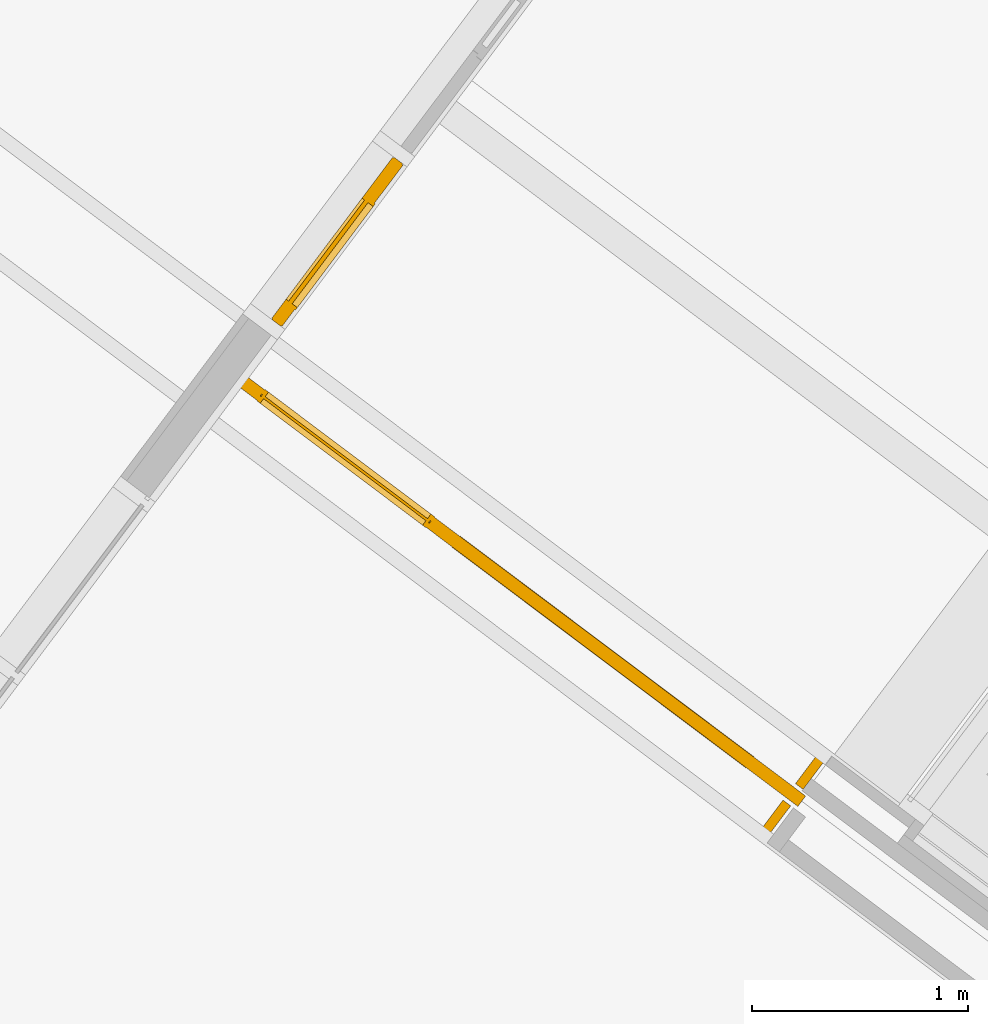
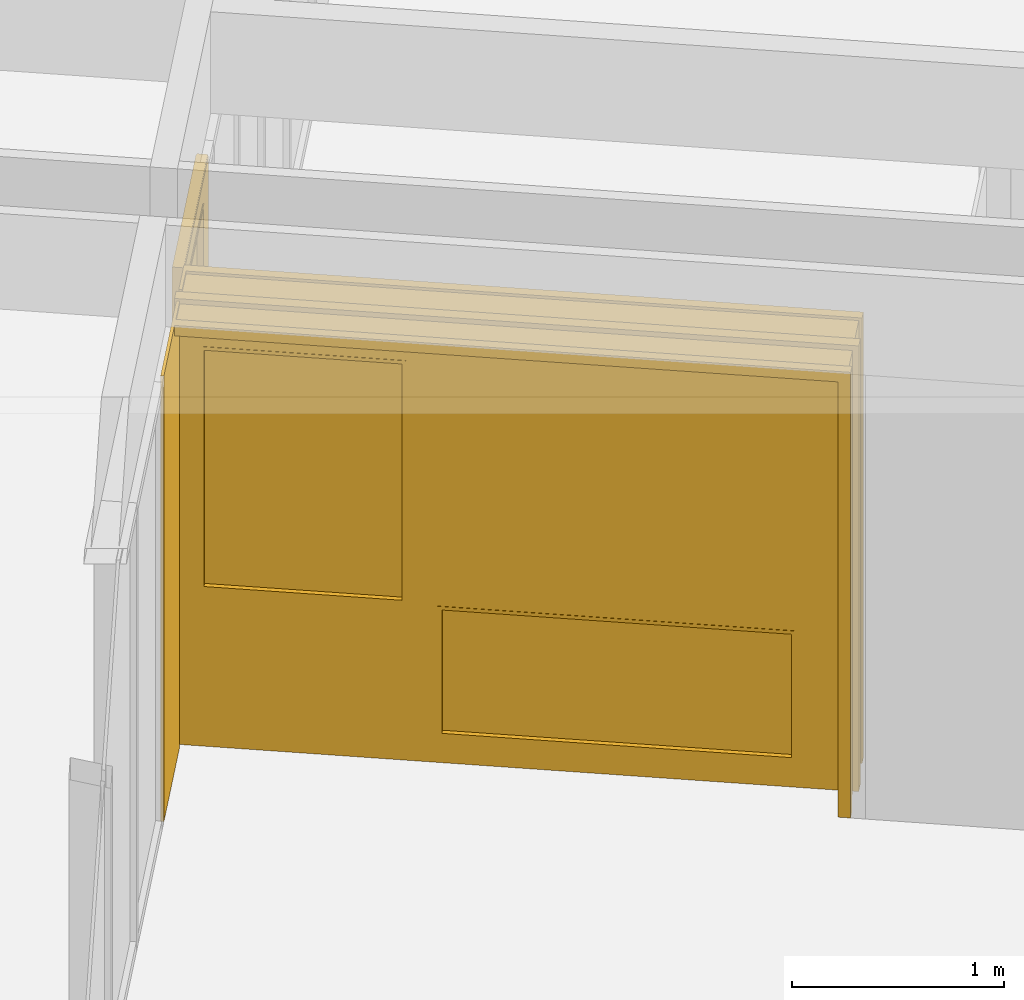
# One storey, part 169 of 243: 2 doors, 1 element without a shape of its own.
"""IFC2X3 building model written with IfcOpenShell, lengths in metres."""

import ifcopenshell
import ifcopenshell.guid

model = None  # the IFC model being written
_history = None  # IfcOwnerHistory: only IFC2X3 demands one
_inside = {}  # id of a spatial element -> (the spatial element, [elements in it])
_under = {}  # id of a project, library or spatial element -> (it, [spatial elements below it])
_declared = {}  # id of a project -> (the project, [libraries it declares])
_typed = {}  # id of a type object -> (the type object, [elements of that type])
_made_of = {}  # id of a material, layer set ... -> (it, [elements and type objects made of it])


def new_model(schema):
    """Start an empty IFC model of exactly this schema.

    Asked for "IFC4X3", IfcOpenShell would pick the latest addendum, in which some entities
    have other attributes; the version numbers below select the first issue.
    IFC2X3 requires an IfcOwnerHistory on every rooted entity: one is made here for all.
    """
    global model, _history
    if schema == "IFC4X3":
        model = ifcopenshell.file(schema_version=(4, 3, 0, 0))
    else:
        model = ifcopenshell.file(schema=schema)
    _inside.clear()
    _under.clear()
    _declared.clear()
    _typed.clear()
    _made_of.clear()
    _history = None
    if model.schema == "IFC2X3":
        org = make("IfcOrganization", Name="unknown")
        user = make(
            "IfcPersonAndOrganization",
            ThePerson=make("IfcPerson", FamilyName="unknown"),
            TheOrganization=org,
        )
        app = make(
            "IfcApplication",
            ApplicationDeveloper=org,
            Version="unknown",
            ApplicationFullName="unknown",
            ApplicationIdentifier="unknown",
        )
        _history = make(
            "IfcOwnerHistory",
            OwningUser=user,
            OwningApplication=app,
            ChangeAction="ADDED",
            CreationDate=0,
        )
    return model


def make(cls, **values):
    """One entity of the class cls with the attributes given. An attribute that is None is left unset."""
    return model.create_entity(
        cls, **{name: value for name, value in values.items() if value is not None}
    )


def entity(cls, *values):
    """Any entity or typed value of the class cls, its attributes in the order of the schema. None: left unset."""
    e = model.create_entity(cls)
    for i, value in enumerate(values):
        if value is not None:
            e[i] = value
    return e


def rooted(cls, **values):
    """An entity with a GlobalId (a new one), such as an element, a storey or a relation."""
    return make(cls, GlobalId=ifcopenshell.guid.new(), OwnerHistory=_history, **values)


def si_unit(unit_type, name, prefix=None):
    """IfcSIUnit, for example si_unit("LENGTHUNIT", "METRE", prefix="MILLI")."""
    return make("IfcSIUnit", UnitType=unit_type, Prefix=prefix, Name=name)


def converted_unit(unit_type, name, factor, base, dimensions=None, offset=None):
    """IfcConversionBasedUnit, such as the inch: factor (a typed value) times the base unit."""
    return make(
        "IfcConversionBasedUnit"
        if offset is None
        else "IfcConversionBasedUnitWithOffset",
        ConversionOffset=offset,
        Dimensions=None
        if dimensions is None
        else entity("IfcDimensionalExponents", *dimensions),
        UnitType=unit_type,
        Name=name,
        ConversionFactor=make(
            "IfcMeasureWithUnit", ValueComponent=factor, UnitComponent=base
        ),
    )


def derived_unit(unit_type, elements):
    """IfcDerivedUnit: a product of units, each with its exponent."""
    return make(
        "IfcDerivedUnit",
        Elements=[
            make("IfcDerivedUnitElement", Unit=unit, Exponent=power)
            for unit, power in elements
        ],
        UnitType=unit_type,
    )


def assignment(units):
    """IfcUnitAssignment: the units of a project."""
    return None if units is None else make("IfcUnitAssignment", Units=units)


def point(xyz):
    """IfcCartesianPoint."""
    return None if xyz is None else make("IfcCartesianPoint", Coordinates=xyz)


def direction(xyz):
    """IfcDirection."""
    return None if xyz is None else make("IfcDirection", DirectionRatios=xyz)


def frame(location, z_axis=None, x_axis=None):
    """IfcAxis2Placement3D, a coordinate frame: its origin and axes. An axis left out is left unset."""
    return make(
        "IfcAxis2Placement3D",
        Location=point(location),
        Axis=direction(z_axis),
        RefDirection=direction(x_axis),
    )


def origin():
    """The frame at (0, 0, 0) with its axes left unset."""
    return frame((0.0, 0.0, 0.0))


def place(relative_to, where):
    """IfcLocalPlacement: puts the frame where relative to a parent placement (None: the world)."""
    return make(
        "IfcLocalPlacement", PlacementRelTo=relative_to, RelativePlacement=where
    )


def context(
    kind, dimensions, precision=None, world=None, true_north=None, identifier=None
):
    """IfcGeometricRepresentationContext, for example the 3D "Model" context."""
    return make(
        "IfcGeometricRepresentationContext",
        ContextIdentifier=identifier,
        ContextType=kind,
        CoordinateSpaceDimension=dimensions,
        Precision=precision,
        WorldCoordinateSystem=world,
        TrueNorth=true_north,
    )


def subcontext(parent, identifier, kind, view, scale=None):
    """IfcGeometricRepresentationSubContext, for example "Body" below "Model"."""
    return make(
        "IfcGeometricRepresentationSubContext",
        ContextIdentifier=identifier,
        ContextType=kind,
        ParentContext=parent,
        TargetScale=scale,
        TargetView=view,
    )


def project(units=None, contexts=None):
    """IfcProject with its units and contexts."""
    return rooted(
        "IfcProject",
        Name="project",
        RepresentationContexts=contexts,
        UnitsInContext=assignment(units),
    )


def spatial(cls, under=None, at=None, **own):
    """A site, building, storey or space (cls), placed at a placement, below another one or the project."""
    s = rooted(cls, ObjectPlacement=at, **own)
    if under is not None:
        _under.setdefault(under.id(), (under, []))[1].append(s)
    return s


def faces_of(points, faces, orient=None, outer=None):
    """IfcFace entities. A face is a list of loops; a loop is a list of indices into points, from 0.

    orient and outer hold one flag for each loop. By default every Orientation is true, the
    first loop of a face is its IfcFaceOuterBound and the others are IfcFaceBound.
    """
    made = []
    for i, loops in enumerate(faces):
        bounds = []
        for j, loop in enumerate(loops):
            is_outer = j == 0 if outer is None else outer[i][j]
            bounds.append(
                make(
                    "IfcFaceOuterBound" if is_outer else "IfcFaceBound",
                    Bound=make("IfcPolyLoop", Polygon=[points[k] for k in loop]),
                    Orientation=True if orient is None else orient[i][j],
                )
            )
        made.append(make("IfcFace", Bounds=bounds))
    return made


def faceted_brep(points, faces, orient=None, outer=None, voids=None):
    """IfcFacetedBrep: a solid bounded by flat faces; with voids (closed shells), ...WithVoids."""
    shared = [point(p) for p in points]
    hull = make("IfcClosedShell", CfsFaces=faces_of(shared, faces, orient, outer))
    if voids is None:
        return make("IfcFacetedBrep", Outer=hull)
    return make(
        "IfcFacetedBrepWithVoids",
        Outer=hull,
        Voids=[
            make(cls, CfsFaces=faces_of(shared, fs, o, b)) for cls, fs, o, b in voids
        ],
    )


def shape(context_of_items, identifier, shape_type, items):
    """IfcShapeRepresentation: the items that make up one representation, for example the "Body"."""
    return make(
        "IfcShapeRepresentation",
        ContextOfItems=context_of_items,
        RepresentationIdentifier=identifier,
        RepresentationType=shape_type,
        Items=items,
    )


def source(mapping_origin, context_of_items, identifier, shape_type, items):
    """IfcRepresentationMap: a shape defined once, which mapped items show again and again."""
    return make(
        "IfcRepresentationMap",
        MappingOrigin=mapping_origin,
        MappedRepresentation=shape(context_of_items, identifier, shape_type, items),
    )


def transform(
    local_origin,
    x_axis=None,
    y_axis=None,
    z_axis=None,
    scale=None,
    scale2=None,
    scale3=None,
    uniform=True,
):
    """IfcCartesianTransformationOperator3D, or its non-uniform kind. x_axis, y_axis, z_axis: its Axis1, 2, 3."""
    if uniform:
        return make(
            "IfcCartesianTransformationOperator3D",
            Axis1=direction(x_axis),
            Axis2=direction(y_axis),
            LocalOrigin=point(local_origin),
            Scale=scale,
            Axis3=direction(z_axis),
        )
    return make(
        "IfcCartesianTransformationOperator3DnonUniform",
        Axis1=direction(x_axis),
        Axis2=direction(y_axis),
        LocalOrigin=point(local_origin),
        Scale=scale,
        Axis3=direction(z_axis),
        Scale2=scale2,
        Scale3=scale3,
    )


def mapped(mapping_source, mapping_target):
    """IfcMappedItem: shows the shape of a source again, moved by a transform."""
    return make(
        "IfcMappedItem", MappingSource=mapping_source, MappingTarget=mapping_target
    )


def material(Name=None, Category=None):
    """IfcMaterial."""
    return make("IfcMaterial", Name=Name, Category=Category)


def material_list(materials):
    """IfcMaterialList."""
    return make("IfcMaterialList", Materials=materials)


def made_of(thing, what):
    """Note that an element or type object is made of a material, layer set ...; save() writes the relation."""
    if what is not None:
        _made_of.setdefault(what.id(), (what, []))[1].append(thing)
    return thing


def type_object(cls, material=None, **own):
    """A type object (cls), such as IfcWallType, which elements share."""
    return made_of(rooted(cls, **own), material)


def type_shapes(of_type, sources):
    """Give a type object the sources (RepresentationMaps) that its elements show as mapped items."""
    of_type.RepresentationMaps = sources


def element(
    cls,
    number,
    at=None,
    inside=None,
    cuts=None,
    type_object=None,
    material=None,
    context=None,
    identifier="Body",
    shape_type=None,
    held_by="IfcProductDefinitionShape",
    body=None,
    shapes=None,
    **own,
):
    """One element of the class cls, such as IfcWall. Its Tag is "e" and its number.

    at: its placement. inside: the storey or other place that contains it. cuts: it is an
    opening in that element (IfcRelVoidsElement). A single representation is given by context,
    identifier, shape_type and body (its items); several are given by shapes. held_by: the class
    of the entity that holds the representations. save() writes the other relations.
    """
    e = rooted(cls, Tag="e%d" % number, ObjectPlacement=at, **own)
    if body is not None:
        shapes = [shape(context, identifier, shape_type, body)]
    if shapes is not None:
        e.Representation = make(held_by, Representations=shapes)
    if inside is not None:
        _inside.setdefault(inside.id(), (inside, []))[1].append(e)
    if cuts is not None:
        rooted(
            "IfcRelVoidsElement", RelatingBuildingElement=cuts, RelatedOpeningElement=e
        )
    if type_object is not None:
        _typed.setdefault(type_object.id(), (type_object, []))[1].append(e)
    return made_of(e, material)


def aggregate(whole, parts):
    """IfcRelAggregates: a whole, such as a stair, and the parts it consists of."""
    return rooted("IfcRelAggregates", RelatingObject=whole, RelatedObjects=parts)


def save(model, path):
    """Write the relations noted so far, then the file.

    IfcRelAggregates (storeys below a building ...), IfcRelContainedInSpatialStructure (elements
    in a storey), IfcRelDefinesByType, IfcRelAssociatesMaterial and IfcRelDeclares: one each for
    every whole, place, type object, material and project.
    """
    for whole, parts in _under.values():
        aggregate(whole, parts)
    for where, things in _inside.values():
        rooted(
            "IfcRelContainedInSpatialStructure",
            RelatedElements=things,
            RelatingStructure=where,
        )
    for kind, things in _typed.values():
        rooted("IfcRelDefinesByType", RelatedObjects=things, RelatingType=kind)
    for what, things in _made_of.values():
        rooted("IfcRelAssociatesMaterial", RelatedObjects=things, RelatingMaterial=what)
    for by, libraries in _declared.values():
        rooted("IfcRelDeclares", RelatingContext=by, RelatedDefinitions=libraries)
    model.write(path)


model = new_model("IFC2X3")

# Units and contexts
model_context = context("Model", 3, precision=1e-05, world=origin(), true_north=direction((6.123031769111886e-17, 1.0)))
body_context = subcontext(model_context, "Body", "Model", "MODEL_VIEW")
ifc_project = project(units=[si_unit("LENGTHUNIT", "METRE"), si_unit("AREAUNIT", "SQUARE_METRE"), si_unit("VOLUMEUNIT", "CUBIC_METRE"), converted_unit("PLANEANGLEUNIT", "DEGREE", entity("IfcRatioMeasure", 0.017453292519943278), si_unit("PLANEANGLEUNIT", "RADIAN"), dimensions=[0, 0, 0, 0, 0, 0, 0]), si_unit("MASSUNIT", "GRAM", prefix="KILO"), derived_unit("MASSDENSITYUNIT", [(si_unit("MASSUNIT", "GRAM", prefix="KILO"), 1), (si_unit("LENGTHUNIT", "METRE"), -3)]), derived_unit("IONCONCENTRATIONUNIT", [(si_unit("MASSUNIT", "GRAM", prefix="KILO"), 1), (si_unit("LENGTHUNIT", "METRE"), -3)]), derived_unit("MOMENTOFINERTIAUNIT", [(si_unit("LENGTHUNIT", "METRE"), 4)]), si_unit("TIMEUNIT", "SECOND"), si_unit("FREQUENCYUNIT", "HERTZ"), si_unit("THERMODYNAMICTEMPERATUREUNIT", "DEGREE_CELSIUS"), derived_unit("THERMALTRANSMITTANCEUNIT", [(si_unit("MASSUNIT", "GRAM", prefix="KILO"), 1), (si_unit("THERMODYNAMICTEMPERATUREUNIT", "KELVIN"), -1), (si_unit("TIMEUNIT", "SECOND"), -3)]), derived_unit("THERMALCONDUCTANCEUNIT", [(si_unit("MASSUNIT", "GRAM", prefix="KILO"), 1), (si_unit("THERMODYNAMICTEMPERATUREUNIT", "KELVIN"), -1), (si_unit("TIMEUNIT", "SECOND"), -3), (si_unit("LENGTHUNIT", "METRE"), 1)]), derived_unit("VOLUMETRICFLOWRATEUNIT", [(si_unit("LENGTHUNIT", "METRE"), 3), (si_unit("TIMEUNIT", "SECOND"), -1)]), derived_unit("MASSFLOWRATEUNIT", [(si_unit("MASSUNIT", "GRAM", prefix="KILO"), 1), (si_unit("TIMEUNIT", "SECOND"), -1)]), derived_unit("ROTATIONALFREQUENCYUNIT", [(si_unit("TIMEUNIT", "SECOND"), -1)]), si_unit("ELECTRICCURRENTUNIT", "AMPERE"), si_unit("ELECTRICVOLTAGEUNIT", "VOLT"), si_unit("POWERUNIT", "WATT"), si_unit("FORCEUNIT", "NEWTON", prefix="KILO"), si_unit("ILLUMINANCEUNIT", "LUX"), si_unit("LUMINOUSFLUXUNIT", "LUMEN"), si_unit("LUMINOUSINTENSITYUNIT", "CANDELA"), derived_unit("USERDEFINED", [(si_unit("MASSUNIT", "GRAM", prefix="KILO"), -1), (si_unit("LENGTHUNIT", "METRE"), -2), (si_unit("TIMEUNIT", "SECOND"), 3), (si_unit("LUMINOUSFLUXUNIT", "LUMEN"), 1)]), derived_unit("USERDEFINED", [(si_unit("MASSUNIT", "GRAM", prefix="KILO"), 1), (si_unit("TIMEUNIT", "SECOND"), -3), (si_unit("LENGTHUNIT", "METRE"), 3), (si_unit("ELECTRICCURRENTUNIT", "AMPERE"), -2)]), derived_unit("SOUNDPOWERUNIT", [(si_unit("MASSUNIT", "GRAM", prefix="KILO"), 1), (si_unit("TIMEUNIT", "SECOND"), -3), (si_unit("LENGTHUNIT", "METRE"), 2)]), derived_unit("SOUNDPRESSUREUNIT", [(si_unit("MASSUNIT", "GRAM", prefix="KILO"), 1), (si_unit("LENGTHUNIT", "METRE"), -1), (si_unit("TIMEUNIT", "SECOND"), -2)]), derived_unit("LINEARVELOCITYUNIT", [(si_unit("LENGTHUNIT", "METRE"), 1), (si_unit("TIMEUNIT", "SECOND"), -1)]), si_unit("PRESSUREUNIT", "PASCAL"), derived_unit("USERDEFINED", [(si_unit("MASSUNIT", "GRAM", prefix="KILO"), 1), (si_unit("LENGTHUNIT", "METRE"), -2), (si_unit("TIMEUNIT", "SECOND"), -2)]), derived_unit("LINEARFORCEUNIT", [(si_unit("MASSUNIT", "GRAM", prefix="KILO"), 1), (si_unit("TIMEUNIT", "SECOND"), -2)]), derived_unit("PLANARFORCEUNIT", [(si_unit("MASSUNIT", "GRAM", prefix="KILO"), 1), (si_unit("LENGTHUNIT", "METRE"), -1), (si_unit("TIMEUNIT", "SECOND"), -2)]), derived_unit("SPECIFICHEATCAPACITYUNIT", [(si_unit("THERMODYNAMICTEMPERATUREUNIT", "KELVIN"), -1), (si_unit("LENGTHUNIT", "METRE"), 2), (si_unit("TIMEUNIT", "SECOND"), -2)]), derived_unit("HEATINGVALUEUNIT", [(si_unit("LENGTHUNIT", "METRE"), 2), (si_unit("TIMEUNIT", "SECOND"), -2)]), derived_unit("VAPORPERMEABILITYUNIT", [(si_unit("LENGTHUNIT", "METRE"), -1), (si_unit("TIMEUNIT", "SECOND"), 1)]), derived_unit("DYNAMICVISCOSITYUNIT", [(si_unit("MASSUNIT", "GRAM", prefix="KILO"), 1), (si_unit("TIMEUNIT", "SECOND"), -1), (si_unit("LENGTHUNIT", "METRE"), -1)]), derived_unit("THERMALEXPANSIONCOEFFICIENTUNIT", [(si_unit("THERMODYNAMICTEMPERATUREUNIT", "KELVIN"), -1)]), derived_unit("MODULUSOFELASTICITYUNIT", [(si_unit("MASSUNIT", "GRAM", prefix="KILO"), 1), (si_unit("LENGTHUNIT", "METRE"), -1), (si_unit("TIMEUNIT", "SECOND"), -2)]), derived_unit("ISOTHERMALMOISTURECAPACITYUNIT", [(si_unit("LENGTHUNIT", "METRE"), 3), (si_unit("MASSUNIT", "GRAM", prefix="KILO"), -1)]), derived_unit("MOISTUREDIFFUSIVITYUNIT", [(si_unit("TIMEUNIT", "SECOND"), -1), (si_unit("LENGTHUNIT", "METRE"), 2)])], contexts=[model_context])

# Site, building, storey
site_placement = place(None, frame((0.0, 0.0, 235.0), z_axis=(0.0, 0.0, 1.0), x_axis=(-0.7996477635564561, 0.6004693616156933, 0.0)))
site = spatial("IfcSite", under=ifc_project, at=site_placement, Name="Default", CompositionType="ELEMENT")
building_placement = place(site_placement, origin())
building = spatial("IfcBuilding", under=site, at=building_placement, CompositionType="ELEMENT")
storey_placement = place(building_placement, origin())
storey = spatial("IfcBuildingStorey", under=building, at=storey_placement, Name="P0- Escola", CompositionType="ELEMENT", Elevation=0.0)

# Door
ifc_material_1 = material(Name="_Vidre")
ifc_material_2 = material(Name="_Fusta massisa- T1")
ifc_material_list_1 = material_list([ifc_material_1, ifc_material_2])
door_style_1 = type_object("IfcDoorStyle", Name="EnvaMobil_AulaInfantil_F1:EnvaMobil_AulaInfantil_F1", ConstructionType="NOTDEFINED", OperationType="NOTDEFINED", ParameterTakesPrecedence=False, Sizeable=False, material=ifc_material_list_1)
shared_shape_1 = source(origin(), body_context, "Body", "Brep", [
    faceted_brep([(3.1170004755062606, -0.006004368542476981, 2.294999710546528), (2.1470002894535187, -0.006004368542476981, 2.2949997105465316), (2.1470002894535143, -0.0060043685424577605, 0.9050002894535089), (3.117000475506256, -0.0060043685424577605, 0.9050002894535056), (3.1170004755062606, 0.0059999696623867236, 2.2949997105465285), (3.117000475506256, 0.005999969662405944, 0.9050002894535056), (2.1470002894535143, 0.005999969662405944, 0.9050002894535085), (2.1470002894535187, 0.0059999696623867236, 2.2949997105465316)], [[[0, 1, 2, 3]], [[4, 5, 6, 7]], [[1, 0, 4, 7]], [[2, 1, 7, 6]], [[3, 2, 6, 5]], [[0, 3, 5, 4]]]),
    faceted_brep([(3.122000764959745, -0.0060043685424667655, 2.2999999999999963), (3.1220007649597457, -0.03200436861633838, 2.2999999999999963), (3.1220007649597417, -0.03200436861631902, 0.8999999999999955), (3.1220007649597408, -0.0060043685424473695, 0.8999999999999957), (3.1020007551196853, -0.032004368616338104, 2.279999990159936), (3.102000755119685, -0.006004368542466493, 2.279999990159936), (3.1020007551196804, -0.006004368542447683, 0.9200000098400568), (3.102000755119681, -0.03200436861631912, 0.9200000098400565), (2.142000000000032, -0.03200436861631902, 0.8999999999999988), (2.142000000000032, -0.0060043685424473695, 0.899999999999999), (2.162000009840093, -0.006004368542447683, 0.9200000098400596), (2.162000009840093, -0.03200436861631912, 0.9200000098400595), (2.1420000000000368, -0.03200436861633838, 2.2999999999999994), (2.1420000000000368, -0.006004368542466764, 2.3), (2.1620000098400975, -0.006004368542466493, 2.279999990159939), (2.1620000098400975, -0.032004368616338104, 2.279999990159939)], [[[0, 1, 2, 3]], [[4, 5, 6, 7]], [[3, 2, 8, 9]], [[7, 6, 10, 11]], [[9, 8, 12, 13]], [[11, 10, 14, 15]], [[7, 11, 15, 4], [1, 12, 8, 2]], [[13, 12, 1, 0]], [[3, 9, 13, 0], [5, 14, 10, 6]], [[15, 14, 5, 4]]], outer=[[True], [True], [True], [True], [True], [True], [False, True], [True], [True, False], [True]]),
    faceted_brep([(3.122000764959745, 0.031995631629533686, 2.2999999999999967), (3.1220007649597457, 0.005999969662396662, 2.2999999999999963), (3.1220007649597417, 0.005999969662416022, 0.8999999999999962), (3.1220007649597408, 0.03199563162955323, 0.8999999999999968), (3.1020007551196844, 0.005999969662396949, 2.2799999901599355), (3.1020007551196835, 0.03199563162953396, 2.2799999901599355), (3.1020007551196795, 0.03199563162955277, 0.9200000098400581), (3.10200075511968, 0.00599996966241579, 0.9200000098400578), (2.1420000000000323, 0.005999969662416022, 0.8999999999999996), (2.1420000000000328, 0.03199563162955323, 0.9), (2.162000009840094, 0.03199563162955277, 0.9200000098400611), (2.162000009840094, 0.00599996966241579, 0.9200000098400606), (2.142000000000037, 0.005999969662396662, 2.3), (2.142000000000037, 0.031995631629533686, 2.3000000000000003), (2.1620000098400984, 0.03199563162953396, 2.2799999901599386), (2.1620000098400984, 0.00599996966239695, 2.279999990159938)], [[[0, 1, 2, 3]], [[4, 5, 6, 7]], [[3, 2, 8, 9]], [[7, 6, 10, 11]], [[9, 8, 12, 13]], [[11, 10, 14, 15]], [[13, 12, 1, 0]], [[3, 9, 13, 0], [5, 14, 10, 6]], [[15, 14, 5, 4]], [[1, 12, 8, 2], [7, 11, 15, 4]]]),
    faceted_brep([(1.9869997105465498, -0.006004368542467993, 0.8949997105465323), (0.2970002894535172, -0.006004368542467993, 0.8949997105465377), (0.2970002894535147, -0.0060043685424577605, 0.15500028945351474), (1.9869997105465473, -0.0060043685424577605, 0.15500028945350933), (1.9869997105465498, 0.005999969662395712, 0.8949997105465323), (1.9869997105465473, 0.005999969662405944, 0.15500028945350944), (0.2970002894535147, 0.005999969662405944, 0.155000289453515), (0.2970002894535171, 0.005999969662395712, 0.8949997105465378)], [[[0, 1, 2, 3]], [[4, 5, 6, 7]], [[1, 0, 4, 7]], [[2, 1, 7, 6]], [[3, 2, 6, 5]], [[0, 3, 5, 4]]]),
    faceted_brep([(1.992000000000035, -0.006004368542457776, 0.9), (1.9920000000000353, -0.032004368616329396, 0.8999999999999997), (1.9920000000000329, -0.03200436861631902, 0.1499999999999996), (1.9920000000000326, -0.006004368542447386, 0.14999999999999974), (1.9719999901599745, -0.03200436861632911, 0.879999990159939), (1.9719999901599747, -0.0060043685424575, 0.8799999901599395), (1.9719999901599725, -0.006004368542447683, 0.17000000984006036), (1.9719999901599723, -0.0320043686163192, 0.17000000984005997), (0.2920000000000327, -0.03200436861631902, 0.15000000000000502), (0.29200000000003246, -0.006004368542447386, 0.1500000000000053), (0.3120000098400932, -0.006004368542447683, 0.17000000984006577), (0.3120000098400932, -0.0320043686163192, 0.17000000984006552), (0.2920000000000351, -0.032004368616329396, 0.9000000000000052), (0.2920000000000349, -0.006004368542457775, 0.9000000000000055), (0.3120000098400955, -0.006004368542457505, 0.879999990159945), (0.3120000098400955, -0.03200436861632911, 0.8799999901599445)], [[[0, 1, 2, 3]], [[4, 5, 6, 7]], [[3, 2, 8, 9]], [[7, 6, 10, 11]], [[9, 8, 12, 13]], [[11, 10, 14, 15]], [[7, 11, 15, 4], [1, 12, 8, 2]], [[13, 12, 1, 0]], [[3, 9, 13, 0], [5, 14, 10, 6]], [[15, 14, 5, 4]]], outer=[[True], [True], [True], [True], [True], [True], [False, True], [True], [True, False], [True]]),
    faceted_brep([(1.992000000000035, 0.03199563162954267, 0.9000000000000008), (1.9920000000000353, 0.005999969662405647, 0.9000000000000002), (1.9920000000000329, 0.005999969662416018, 0.15000000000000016), (1.9920000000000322, 0.03199563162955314, 0.15000000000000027), (1.9719999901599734, 0.005999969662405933, 0.8799999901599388), (1.9719999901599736, 0.03199563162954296, 0.8799999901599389), (1.9719999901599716, 0.03199563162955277, 0.170000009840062), (1.9719999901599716, 0.00599996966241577, 0.17000000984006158), (0.2920000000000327, 0.005999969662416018, 0.15000000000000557), (0.2920000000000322, 0.03199563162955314, 0.15000000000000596), (0.3120000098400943, 0.031995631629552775, 0.17000000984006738), (0.3120000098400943, 0.00599996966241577, 0.17000000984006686), (0.2920000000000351, 0.005999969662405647, 0.9000000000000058), (0.29200000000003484, 0.03199563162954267, 0.9000000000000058), (0.3120000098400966, 0.03199563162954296, 0.8799999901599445), (0.3120000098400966, 0.005999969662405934, 0.879999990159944)], [[[0, 1, 2, 3]], [[4, 5, 6, 7]], [[3, 2, 8, 9]], [[7, 6, 10, 11]], [[9, 8, 12, 13]], [[11, 10, 14, 15]], [[13, 12, 1, 0]], [[3, 9, 13, 0], [5, 14, 10, 6]], [[15, 14, 5, 4]], [[1, 12, 8, 2], [7, 11, 15, 4]]]),
    faceted_brep([(3.2420000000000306, 0.022981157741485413, 2.5649999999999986), (3.242000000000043, 0.029981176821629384, 2.5649999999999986), (-0.007999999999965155, 0.029981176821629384, 2.5649999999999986), (-0.007999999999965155, 0.022981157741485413, 2.5649999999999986), (3.2420000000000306, 0.022981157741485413, 0.0), (-0.007999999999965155, 0.022981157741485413, 0.0), (-0.007999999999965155, 0.029981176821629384, 0.0), (3.242000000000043, 0.029981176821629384, 0.0), (3.122000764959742, 0.029981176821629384, 0.8999999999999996), (3.122000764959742, 0.029981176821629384, 2.3000000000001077), (2.142000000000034, 0.029981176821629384, 2.3000000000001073), (2.1420000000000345, 0.029981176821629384, 0.900000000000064), (1.9920000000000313, 0.029981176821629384, 0.900000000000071), (0.2920000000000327, 0.029981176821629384, 0.900000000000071), (0.2920000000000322, 0.029981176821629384, 0.1500000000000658), (1.9920000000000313, 0.029981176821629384, 0.15000000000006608), (3.122000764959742, 0.022981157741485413, 2.3000000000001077), (3.122000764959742, 0.022981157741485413, 0.8999999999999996), (2.142000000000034, 0.022981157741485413, 0.900000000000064), (2.142000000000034, 0.022981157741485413, 2.3000000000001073), (0.2920000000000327, 0.022981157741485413, 0.900000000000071), (1.9920000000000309, 0.022981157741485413, 0.900000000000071), (1.9920000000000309, 0.022981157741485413, 0.1500000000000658), (0.2920000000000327, 0.022981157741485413, 0.1500000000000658)], [[[0, 1, 2, 3]], [[4, 5, 6, 7]], [[1, 0, 4, 7]], [[2, 1, 7, 6], [8, 9, 10, 11], [12, 13, 14, 15]], [[3, 2, 6, 5]], [[0, 3, 5, 4], [16, 17, 18, 19], [20, 21, 22, 23]], [[8, 17, 16, 9]], [[9, 16, 19, 10]], [[10, 19, 18, 11]], [[17, 8, 11, 18]], [[12, 21, 20, 13]], [[13, 20, 23, 14]], [[14, 23, 22, 15]], [[21, 12, 15, 22]]]),
    faceted_brep([(3.2420000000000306, 0.022981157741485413, 2.5649999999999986), (-0.007999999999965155, 0.022981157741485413, 2.5649999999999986), (-0.007999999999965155, -0.02298110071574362, 2.5649999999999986), (3.242000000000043, -0.02298110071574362, 2.5649999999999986), (3.2420000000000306, 0.022981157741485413, 0.0), (3.242000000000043, -0.02298110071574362, 0.0), (-0.007999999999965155, -0.02298110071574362, 0.0), (-0.007999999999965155, 0.022981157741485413, 0.0), (3.122000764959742, 0.022981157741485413, 0.8999999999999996), (3.122000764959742, 0.022981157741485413, 2.3000000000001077), (2.142000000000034, 0.022981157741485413, 2.3000000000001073), (2.142000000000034, 0.022981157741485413, 0.900000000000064), (1.9920000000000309, 0.022981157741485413, 0.900000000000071), (0.2920000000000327, 0.022981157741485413, 0.900000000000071), (0.2920000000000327, 0.022981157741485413, 0.1500000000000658), (1.9920000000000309, 0.022981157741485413, 0.1500000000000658), (3.122000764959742, -0.02298110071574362, 2.3000000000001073), (3.122000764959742, -0.02298110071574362, 0.899999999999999), (2.142000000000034, -0.02298110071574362, 0.9000000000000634), (2.142000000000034, -0.02298110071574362, 2.300000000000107), (0.2920000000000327, -0.02298110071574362, 0.9000000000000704), (1.9920000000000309, -0.02298110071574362, 0.9000000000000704), (1.9920000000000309, -0.02298110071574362, 0.15000000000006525), (0.2920000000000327, -0.02298110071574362, 0.15000000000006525)], [[[0, 1, 2, 3]], [[4, 5, 6, 7]], [[1, 0, 4, 7], [8, 9, 10, 11], [12, 13, 14, 15]], [[2, 1, 7, 6]], [[3, 2, 6, 5], [16, 17, 18, 19], [20, 21, 22, 23]], [[0, 3, 5, 4]], [[8, 17, 16, 9]], [[9, 16, 19, 10]], [[10, 19, 18, 11]], [[17, 8, 11, 18]], [[12, 21, 20, 13]], [[13, 20, 23, 14]], [[14, 23, 22, 15]], [[21, 12, 15, 22]]]),
    faceted_brep([(3.242000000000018, -0.029981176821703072, 2.5649999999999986), (3.242000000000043, -0.022981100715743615, 2.5649999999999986), (-0.007999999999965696, -0.02298110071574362, 2.5649999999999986), (-0.007999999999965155, -0.029981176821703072, 2.5649999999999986), (3.242000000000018, -0.029981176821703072, 0.0), (-0.007999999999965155, -0.029981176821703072, 0.0), (-0.007999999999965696, -0.02298110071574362, 0.0), (3.242000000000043, -0.022981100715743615, 0.0), (3.122000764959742, -0.022981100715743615, 0.899999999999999), (3.122000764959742, -0.022981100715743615, 2.3000000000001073), (2.142000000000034, -0.022981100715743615, 2.300000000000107), (2.1420000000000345, -0.022981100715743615, 0.9000000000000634), (1.9920000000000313, -0.022981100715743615, 0.9000000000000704), (0.2920000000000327, -0.02298110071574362, 0.9000000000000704), (0.2920000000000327, -0.02298110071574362, 0.15000000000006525), (1.9920000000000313, -0.022981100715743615, 0.15000000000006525), (3.122000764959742, -0.029981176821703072, 2.300000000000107), (3.122000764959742, -0.029981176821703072, 0.8999999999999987), (2.142000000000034, -0.029981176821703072, 0.9000000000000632), (2.142000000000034, -0.029981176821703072, 2.3000000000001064), (0.2920000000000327, -0.029981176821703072, 0.9000000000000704), (1.9920000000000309, -0.029981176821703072, 0.9000000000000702), (1.9920000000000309, -0.029981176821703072, 0.15000000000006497), (0.2920000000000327, -0.029981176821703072, 0.15000000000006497)], [[[0, 1, 2, 3]], [[4, 5, 6, 7]], [[1, 0, 4, 7]], [[2, 1, 7, 6], [8, 9, 10, 11], [12, 13, 14, 15]], [[3, 2, 6, 5]], [[0, 3, 5, 4], [16, 17, 18, 19], [20, 21, 22, 23]], [[8, 17, 16, 9]], [[9, 16, 19, 10]], [[10, 19, 18, 11]], [[17, 8, 11, 18]], [[12, 21, 20, 13]], [[13, 20, 23, 14]], [[14, 23, 22, 15]], [[21, 12, 15, 22]]]),
    faceted_brep([(3.2310000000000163, -0.04799999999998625, 2.5649999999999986), (3.215000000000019, -0.04799999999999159, 2.5649999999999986), (3.215000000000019, -0.250000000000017, 2.5649999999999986), (3.2310000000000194, -0.250000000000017, 2.5649999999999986), (3.2310000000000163, -0.04799999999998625, 0.0), (3.215000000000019, -0.04799999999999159, 0.0), (3.215000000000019, -0.250000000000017, 0.0), (3.2310000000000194, -0.250000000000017, 0.0)], [[[0, 1, 2, 3]], [[1, 0, 4, 5]], [[2, 1, 5, 6]], [[3, 2, 6, 7]], [[0, 3, 7, 4]], [[4, 7, 6, 5]]]),
    faceted_brep([(3.2310000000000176, 0.04799999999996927, 0.0), (3.2150000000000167, 0.047999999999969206, 0.0), (3.2150000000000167, 0.6679999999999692, 0.0), (3.2310000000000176, 0.6679999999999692, 0.0), (3.2310000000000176, 0.6679999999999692, 2.5649999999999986), (3.2310000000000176, 0.04799999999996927, 2.5649999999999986), (3.2150000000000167, 0.6679999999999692, 2.5649999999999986), (3.2150000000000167, 0.04799999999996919, 2.5649999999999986)], [[[0, 1, 2, 3]], [[4, 5, 0, 3]], [[6, 4, 3, 2]], [[7, 6, 2, 1]], [[5, 7, 1, 0]], [[5, 4, 6, 7]]]),
    faceted_brep([(0.0040000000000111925, -0.2500000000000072, 0.0), (0.004000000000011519, -0.2000000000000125, 0.0), (0.020000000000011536, -0.2000000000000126, 0.0), (0.020000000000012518, -0.047999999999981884, 0.0), (0.06400000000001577, -0.047999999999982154, 0.0), (0.06400000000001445, -0.25000000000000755, 0.0), (3.215000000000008, -0.2500000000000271, 2.5649999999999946), (3.215000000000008, -0.2500000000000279, 2.504999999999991), (3.215000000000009, -0.04800000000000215, 2.504999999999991), (3.215000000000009, -0.048000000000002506, 2.5489999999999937), (3.2150000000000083, -0.20000000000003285, 2.5489999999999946), (3.2150000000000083, -0.20000000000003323, 2.5649999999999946), (0.004000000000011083, -0.2500000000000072, 2.5649999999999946), (0.004000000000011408, -0.2000000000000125, 2.5649999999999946), (0.020000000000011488, -0.2000000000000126, 2.5489999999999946), (0.02000000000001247, -0.047999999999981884, 2.5489999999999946), (0.06400000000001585, -0.047999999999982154, 2.504999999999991), (0.06400000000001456, -0.25000000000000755, 2.504999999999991)], [[[0, 1, 2, 3, 4, 5]], [[6, 7, 8, 9, 10, 11]], [[1, 0, 12, 13]], [[2, 1, 13, 11, 10, 14]], [[3, 2, 14, 15]], [[4, 3, 15, 9, 8, 16]], [[5, 4, 16, 17]], [[0, 5, 17, 7, 6, 12]], [[13, 12, 6, 11]], [[15, 14, 10, 9]], [[17, 16, 8, 7]]]),
    faceted_brep([(0.06400000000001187, 0.24999999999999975, 0.0), (0.004000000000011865, 0.2500000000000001, 0.0), (0.004000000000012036, 0.2500000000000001, 2.564999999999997), (3.215000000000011, 0.24999999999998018, 2.564999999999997), (3.2150000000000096, 0.24999999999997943, 2.504999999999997), (0.06400000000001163, 0.24999999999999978, 2.504999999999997), (0.06400000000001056, 0.04799999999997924, 0.0), (0.06400000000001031, 0.04799999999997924, 2.5049999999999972), (0.02000000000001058, 0.04799999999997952, 0.0), (3.2150000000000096, 0.04799999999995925, 2.5049999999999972), (3.2150000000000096, 0.04799999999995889, 2.5489999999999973), (0.020000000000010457, 0.04799999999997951, 2.5489999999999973), (0.02000000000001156, 0.19999999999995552, 0.0), (0.020000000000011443, 0.19999999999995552, 2.5489999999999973), (0.0040000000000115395, 0.19999999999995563, 0.0), (3.215000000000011, 0.19999999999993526, 2.548999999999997), (3.2150000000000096, 0.1999999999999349, 2.564999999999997), (0.004000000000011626, 0.19999999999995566, 2.564999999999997)], [[[0, 1, 2, 3, 4, 5]], [[6, 0, 5, 7]], [[8, 6, 7, 9, 10, 11]], [[12, 8, 11, 13]], [[14, 12, 13, 15, 16, 17]], [[1, 14, 17, 2]], [[7, 5, 4, 9]], [[13, 11, 10, 15]], [[2, 17, 16, 3]], [[3, 16, 15, 10, 9, 4]], [[1, 0, 6, 8, 12, 14]]]),
])
type_shapes(door_style_1, [shared_shape_1])
door_1_placement = place(storey_placement, frame((10.024147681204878, -34.190191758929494, 0.0)))
element("IfcDoor", 1, at=door_1_placement, inside=storey, type_object=door_style_1, material=ifc_material_list_1, Name="EnvaMobil_AulaInfantil_F1:EnvaMobil_AulaInfantil_F1", ObjectType="EnvaMobil_AulaInfantil_F1:EnvaMobil_AulaInfantil_F1", OverallHeight=2.5650000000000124, OverallWidth=3.257999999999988, context=body_context, shape_type="MappedRepresentation", body=[
    mapped(shared_shape_1, transform((0.0, 0.0, 0.0), scale=1.0)),
])

# Curtain wall, door
curtain_wall_type = type_object("IfcCurtainWallType", Name="Muro cortina:MC- INT- a3", PredefinedType="NOTDEFINED")
curtain_wall_placement = place(storey_placement, origin())
curtain_wall = element("IfcCurtainWall", 2, at=curtain_wall_placement, inside=storey, type_object=curtain_wall_type, Name="Muro cortina:MC- INT- a3", ObjectType="Muro cortina:MC- INT- a3")
ifc_material_list_2 = material_list([ifc_material_2, ifc_material_1])
door_style_2 = type_object("IfcDoorStyle", Name="MC- Fusta- conjunt porta:MC- Fusta- conjunt Porta aules", ConstructionType="NOTDEFINED", OperationType="NOTDEFINED", ParameterTakesPrecedence=False, Sizeable=False, material=ifc_material_list_2)
shared_shape_2 = source(origin(), body_context, "Body", "Brep", [
    faceted_brep([(0.24500000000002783, -0.024999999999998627, 2.3799999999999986), (0.24500000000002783, -0.024999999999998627, 0.3299999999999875), (0.24500000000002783, 0.0050000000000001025, 0.3299999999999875), (0.24500000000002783, 0.0050000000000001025, 2.3799999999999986), (-0.3700000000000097, -0.024999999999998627, 0.3299999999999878), (-0.3700000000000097, 0.0050000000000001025, 0.3299999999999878), (-0.37000000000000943, -0.024999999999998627, 2.3799999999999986), (-0.37000000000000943, 0.0050000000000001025, 2.3799999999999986), (0.23000000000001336, 0.0050000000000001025, 2.3650000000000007), (-0.35499999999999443, 0.0050000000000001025, 2.3650000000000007), (-0.35499999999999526, 0.0050000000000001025, 0.3449999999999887), (0.23000000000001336, 0.0050000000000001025, 0.34499999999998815), (0.23000000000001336, -0.024999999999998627, 2.3650000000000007), (0.23000000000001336, -0.024999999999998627, 0.34499999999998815), (-0.35499999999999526, -0.024999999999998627, 0.3449999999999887), (-0.35499999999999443, -0.024999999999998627, 2.3650000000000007)], [[[0, 1, 2, 3]], [[1, 4, 5, 2]], [[4, 6, 7, 5]], [[8, 9, 10, 11], [3, 2, 5, 7]], [[12, 13, 14, 15], [0, 6, 4, 1]], [[13, 12, 8, 11]], [[14, 13, 11, 10]], [[15, 14, 10, 9]], [[6, 0, 3, 7]], [[12, 15, 9, 8]]], outer=[[True], [True], [True], [False, True], [False, True], [True], [True], [True], [True], [True]]),
    faceted_brep([(0.43999999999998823, 0.03999999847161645, 0.0), (0.43999999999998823, 0.0099999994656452, 0.0), (0.4550000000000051, 0.0099999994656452, 0.0), (0.4550000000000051, -0.01999999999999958, 0.0), (-0.45499999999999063, -0.019999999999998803, 0.0), (-0.45499999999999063, 0.009999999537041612, 0.0), (-0.43999999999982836, 0.009999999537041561, 0.0), (-0.43999999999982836, 0.039999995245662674, 0.0), (0.45500000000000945, -0.01999999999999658, 2.4899999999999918), (-0.45499999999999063, -0.019999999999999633, 2.4899999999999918), (0.24500000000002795, -0.019999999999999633, 0.3300000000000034), (-0.37000000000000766, -0.019999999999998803, 0.3300000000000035), (-0.37000000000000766, -0.01999999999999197, 2.3799999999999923), (0.24500000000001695, -0.019999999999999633, 2.3799999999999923), (0.45500000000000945, 0.0099999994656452, 2.4899999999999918), (-0.45499999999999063, 0.0099999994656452, 2.4899999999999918), (0.43999999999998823, 0.03999999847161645, 2.4749999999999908), (0.43999999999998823, 0.0099999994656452, 2.4749999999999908), (-0.43999999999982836, 0.0099999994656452, 2.4749999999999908), (-0.43999999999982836, 0.039999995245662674, 2.4749999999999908), (-0.3549999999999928, 0.03999999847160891, 0.3450000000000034), (0.2300000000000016, 0.03999999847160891, 0.3450000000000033), (0.2300000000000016, 0.03999999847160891, 2.364999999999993), (-0.3549999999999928, 0.03999999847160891, 2.364999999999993), (-0.3549999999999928, 0.025000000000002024, 0.3450000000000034), (0.2300000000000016, 0.025000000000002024, 0.3450000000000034), (0.2300000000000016, 0.024999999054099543, 2.364999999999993), (-0.3549999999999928, 0.03999999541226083, 2.364999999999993), (-0.3549999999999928, 0.024999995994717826, 2.364999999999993), (0.2300000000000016, 0.025000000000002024, 2.364999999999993), (-0.37000000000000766, 0.025000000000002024, 0.3300000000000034), (0.24500000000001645, 0.025000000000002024, 0.3300000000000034), (0.24500000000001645, 0.025000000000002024, 2.3799999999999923), (-0.37000000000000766, 0.025000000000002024, 2.3799999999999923), (0.24500000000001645, 0.024999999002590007, 0.3300000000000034), (-0.37000000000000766, 0.02499999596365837, 2.3799999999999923), (0.24500000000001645, 0.024999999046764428, 2.3799999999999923)], [[[0, 1, 2, 3, 4, 5, 6, 7]], [[8, 9, 4, 3], [10, 11, 12, 13]], [[8, 3, 2, 14]], [[15, 5, 4, 9]], [[16, 17, 1, 0]], [[14, 2, 1, 17, 18, 6, 5, 15]], [[18, 19, 7, 6]], [[16, 0, 7, 19], [20, 21, 22, 23]], [[21, 20, 24, 25]], [[21, 25, 26, 22]], [[24, 20, 27, 28]], [[25, 24, 28, 29], [30, 31, 32, 33]], [[11, 10, 31, 30]], [[34, 10, 13, 32]], [[11, 30, 35, 12]], [[9, 8, 14, 15]], [[17, 16, 19, 18]], [[23, 22, 29, 28]], [[13, 12, 33, 36]]], outer=[[True], [True, False], [True], [True], [True], [True], [True], [True, False], [True], [True], [True], [False, True], [True], [True], [True], [True], [True], [True], [True]]),
    faceted_brep([(-0.37000000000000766, 0.024999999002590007, 0.3300000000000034), (0.2450000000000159, 0.024999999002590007, 0.3300000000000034), (0.2450000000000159, 0.0050000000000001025, 0.3300000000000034), (-0.37000000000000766, 0.0050000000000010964, 0.3300000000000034), (-0.37000000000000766, 0.024999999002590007, 2.380000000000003), (0.2450000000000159, 0.024999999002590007, 2.380000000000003), (0.2450000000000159, 0.0050000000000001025, 2.380000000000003), (-0.37000000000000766, 0.0050000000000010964, 2.380000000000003)], [[[0, 1, 2, 3]], [[4, 5, 1, 0]], [[5, 6, 2, 1]], [[6, 7, 3, 2]], [[7, 4, 0, 3]], [[4, 7, 6, 5]]]),
    faceted_brep([(0.46500000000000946, -0.01999999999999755, 0.0), (0.4550000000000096, -0.01999999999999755, 0.0), (0.4550000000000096, 0.010000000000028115, 0.0), (0.44000000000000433, 0.010000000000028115, 0.0), (0.44000000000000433, 0.0400000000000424, 0.0), (0.46500000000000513, 0.0400000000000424, 0.0), (0.46500000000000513, 0.03600000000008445, 0.0), (0.469999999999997, 0.03600000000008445, 0.0), (0.469999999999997, -0.015999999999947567, 0.0), (0.46500000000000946, -0.015999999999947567, 0.0), (0.46500000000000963, -0.01999999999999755, 2.5000000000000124), (-0.46500000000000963, -0.01999999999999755, 2.5000000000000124), (-0.46500000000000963, -0.01999999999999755, 0.0), (-0.45500000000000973, -0.01999999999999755, 0.0), (-0.45500000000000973, -0.01999999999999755, 2.4900000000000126), (0.4550000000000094, -0.01999999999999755, 2.490000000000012), (0.4550000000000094, 0.010000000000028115, 2.490000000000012), (-0.45500000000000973, 0.010000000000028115, 2.4900000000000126), (-0.45500000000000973, 0.010000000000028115, 0.0), (-0.4400000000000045, 0.010000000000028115, 0.0), (-0.4400000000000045, 0.010000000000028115, 2.4750000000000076), (0.4400000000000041, 0.010000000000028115, 2.4750000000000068), (0.4400000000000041, 0.0400000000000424, 2.4750000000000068), (-0.4400000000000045, 0.0400000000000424, 2.4750000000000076), (-0.4400000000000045, 0.0400000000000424, 0.0), (-0.4650000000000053, 0.0400000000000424, 0.0), (-0.4650000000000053, 0.0400000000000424, 2.5000000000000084), (0.46500000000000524, 0.0400000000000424, 2.5000000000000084), (0.46500000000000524, 0.03600000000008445, 2.5000000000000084), (-0.4650000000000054, 0.03600000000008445, 2.5000000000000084), (-0.4650000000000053, 0.03600000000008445, 0.0), (-0.4699999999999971, 0.03600000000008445, 0.0), (-0.4699999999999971, 0.03600000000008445, 2.5050000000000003), (0.46999999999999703, 0.03600000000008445, 2.5050000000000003), (0.46999999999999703, -0.015999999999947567, 2.5050000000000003), (-0.46999999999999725, -0.015999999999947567, 2.5050000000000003), (-0.4699999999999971, -0.015999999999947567, 0.0), (-0.46500000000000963, -0.015999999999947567, 0.0), (-0.46500000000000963, -0.015999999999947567, 2.5000000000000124), (0.4650000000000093, -0.015999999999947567, 2.500000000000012)], [[[0, 1, 2, 3, 4, 5, 6, 7, 8, 9]], [[1, 0, 10, 11, 12, 13, 14, 15]], [[2, 1, 15, 16]], [[3, 2, 16, 17, 18, 19, 20, 21]], [[4, 3, 21, 22]], [[5, 4, 22, 23, 24, 25, 26, 27]], [[6, 5, 27, 28]], [[7, 6, 28, 29, 30, 31, 32, 33]], [[8, 7, 33, 34]], [[9, 8, 34, 35, 36, 37, 38, 39]], [[0, 9, 39, 10]], [[11, 38, 37, 12]], [[12, 37, 36, 31, 30, 25, 24, 19, 18, 13]], [[17, 14, 13, 18]], [[23, 20, 19, 24]], [[29, 26, 25, 30]], [[35, 32, 31, 36]], [[16, 15, 14, 17]], [[22, 21, 20, 23]], [[28, 27, 26, 29]], [[34, 33, 32, 35]], [[10, 39, 38, 11]]]),
])
type_shapes(door_style_2, [shared_shape_2])
door_2_placement = place(curtain_wall_placement, frame((13.279147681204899, -34.97019175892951, 0.0), z_axis=(0.0, 0.0, 1.0), x_axis=(0.0, -1.0, 0.0)))
door_2 = element("IfcDoor", 3, at=door_2_placement, type_object=door_style_2, material=ifc_material_list_2, Name="MC- Fusta- conjunt porta:MC- Fusta- conjunt Porta aules", ObjectType="MC- Fusta- conjunt porta:MC- Fusta- conjunt Porta aules", OverallHeight=2.5050000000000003, OverallWidth=0.9399999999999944, context=body_context, shape_type="MappedRepresentation", body=[
    mapped(shared_shape_2, transform((0.0, 0.0, 0.0), scale=1.0)),
])
aggregate(curtain_wall, [door_2])

save(model, "model.ifc")
